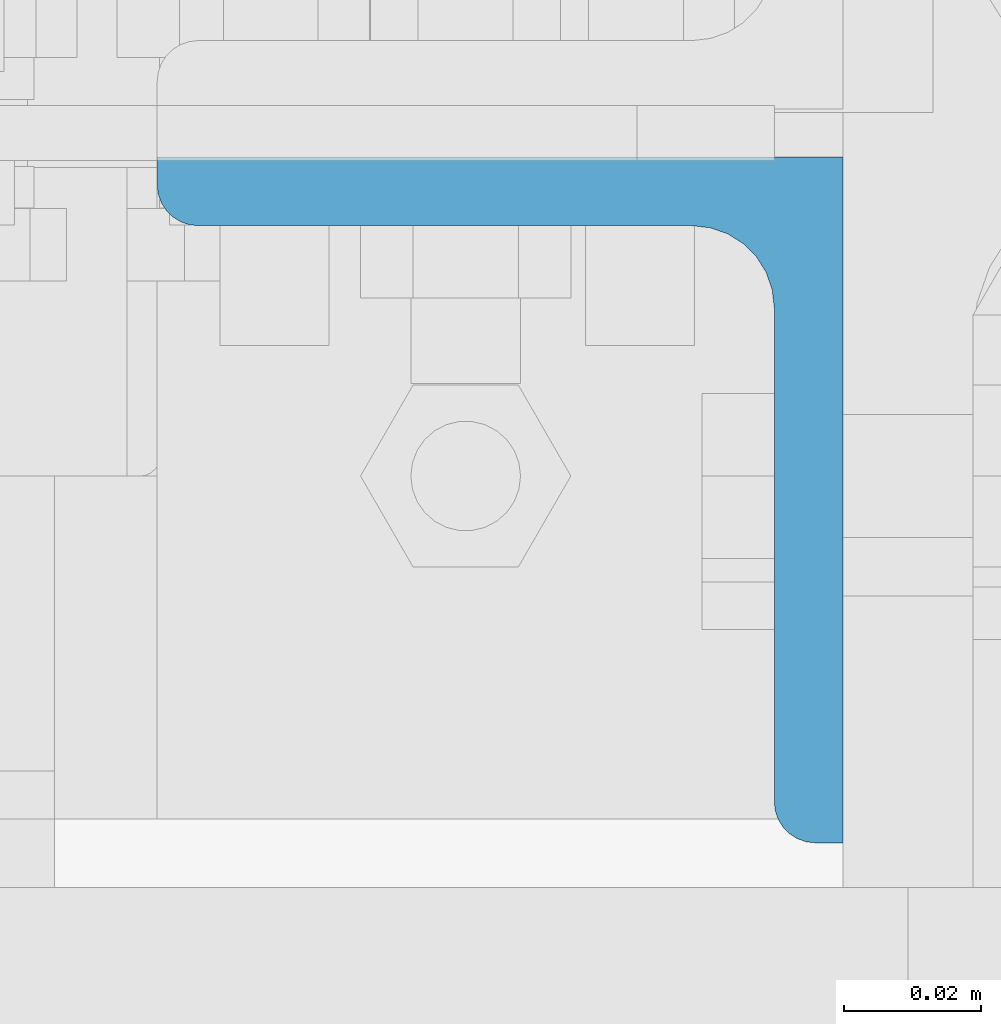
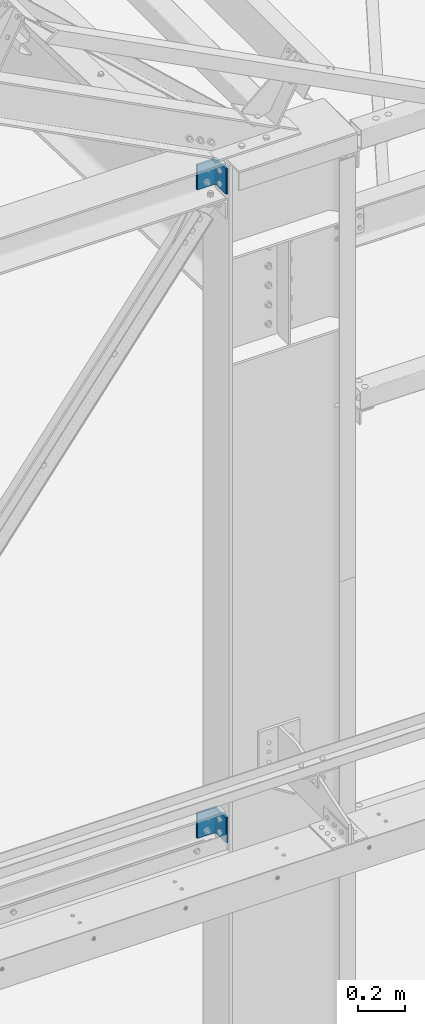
# One storey, part 29 of 362: 2 columns, 2 elements without a shape of their own.
"""IFC2X3 building model written with IfcOpenShell, lengths in millimetres."""

from ifc_helpers import new_model, si_unit, frame, origin_with_axes, origin_2d_with_axis, place, context, subcontext, project, spatial, l_section, extrude, material, type_object, element, aggregate, save


model = new_model("IFC2X3")

# Units and contexts
model_context = context("Model", 3, precision=1e-05, world=origin_with_axes())
body_context = subcontext(model_context, "Body", "Model", "MODEL_VIEW")
ifc_project = project(units=[si_unit("LENGTHUNIT", "METRE", prefix="MILLI"), si_unit("AREAUNIT", "SQUARE_METRE"), si_unit("VOLUMEUNIT", "CUBIC_METRE"), si_unit("MASSUNIT", "GRAM", prefix="KILO"), si_unit("TIMEUNIT", "SECOND"), si_unit("PLANEANGLEUNIT", "RADIAN"), si_unit("SOLIDANGLEUNIT", "STERADIAN"), si_unit("THERMODYNAMICTEMPERATUREUNIT", "DEGREE_CELSIUS"), si_unit("LUMINOUSINTENSITYUNIT", "LUMEN")], contexts=[model_context])

# Site, building, storey
site_placement = place(None, origin_with_axes())
site = spatial("IfcSite", under=ifc_project, at=site_placement, Name="Undefined", CompositionType="ELEMENT")
building_placement = place(site_placement, origin_with_axes())
building = spatial("IfcBuilding", under=site, at=building_placement, Name="Undefined", CompositionType="ELEMENT")
storey_placement = place(building_placement, origin_with_axes())
storey = spatial("IfcBuildingStorey", under=building, at=storey_placement, Name="Undefined", CompositionType="ELEMENT", Elevation=0.0)

# Assembly, column
assembly_1_placement = place(storey_placement, origin_with_axes())
assembly_1 = element("IfcElementAssembly", 1, at=assembly_1_placement, inside=storey, AssemblyPlace="NOTDEFINED", PredefinedType="NOTDEFINED")
ifc_material = material(Name="Undefined/S235-E24")
column_type = type_object("IfcColumnType", Name="L100*10", PredefinedType="NOTDEFINED")
column_1_placement = place(assembly_1_placement, frame((28529.9999133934, -53.500000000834, 8390.00002208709), z_axis=(0.0, 0.0, 1.0), x_axis=(-1.0, 0.0, 0.0)))
column_1 = element("IfcColumn", 2, at=column_1_placement, type_object=column_type, material=ifc_material, Name="ATTACHE", ObjectType="L100*10", context=body_context, shape_type="SweptSolid", body=[
    extrude(l_section(Depth=100.0, Width=100.0, Thickness=10.0, FilletRadius=12.0, EdgeRadius=6.0, at=origin_2d_with_axis()), frame((0.0, 1.81898940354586e-12, 129.999999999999), z_axis=(0.0, 0.0, -1.0), x_axis=(0.0, 1.0, 0.0)), (0.0, 0.0, 1.0), 130.0),
])
aggregate(assembly_1, [column_1])

assembly_2_placement = place(storey_placement, origin_with_axes())
assembly_2 = element("IfcElementAssembly", 3, at=assembly_2_placement, inside=storey, AssemblyPlace="NOTDEFINED", PredefinedType="NOTDEFINED")
column_2_placement = place(assembly_2_placement, frame((28529.9999133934, -53.500000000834, 5030.00085394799), z_axis=(0.0, 0.0, 1.0), x_axis=(-1.0, 0.0, 0.0)))
column_2 = element("IfcColumn", 4, at=column_2_placement, type_object=column_type, material=ifc_material, Name="ATTACHE", ObjectType="L100*10", context=body_context, shape_type="SweptSolid", body=[
    extrude(l_section(Depth=100.0, Width=100.0, Thickness=10.0, FilletRadius=12.0, EdgeRadius=6.0, at=origin_2d_with_axis()), frame((0.0, 1.81898940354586e-12, 129.999999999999), z_axis=(0.0, 0.0, -1.0), x_axis=(0.0, 1.0, 0.0)), (0.0, 0.0, 1.0), 130.0),
])
aggregate(assembly_2, [column_2])

save(model, "model.ifc")
